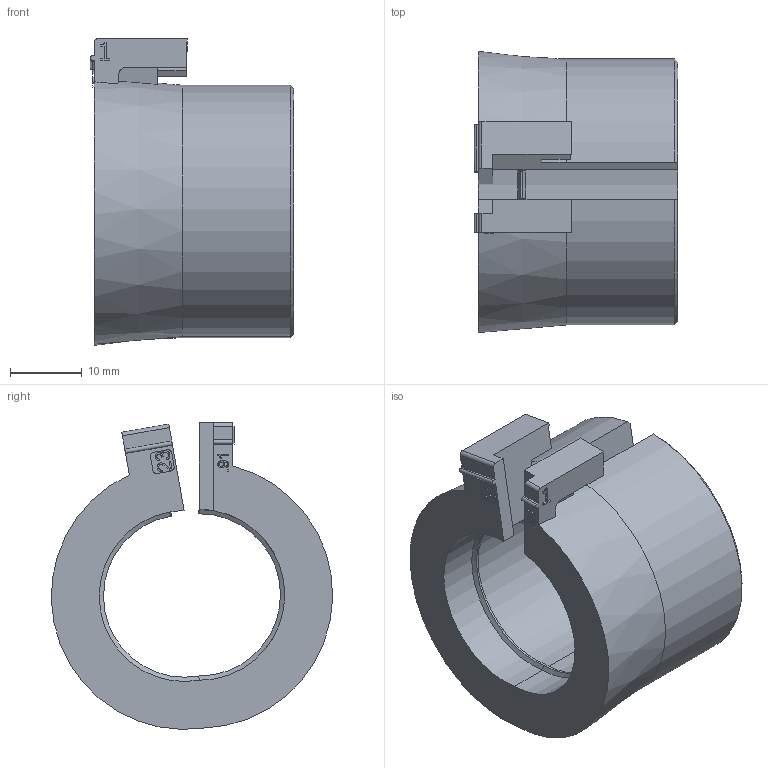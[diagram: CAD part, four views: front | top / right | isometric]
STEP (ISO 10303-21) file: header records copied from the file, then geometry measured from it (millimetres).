
FILE_DESCRIPTION(/* description */ (''),/* implementation_level */ '2;1');
FILE_NAME(/* name */ 'C:\SapWorkDir\Inventor\MP1\ConvertTempPath\87_12_121372_00_A_220530_KDT-X 23.stp',/* time_stamp */ '2022-05-31T16:01:47+02:00',/* author */ ('BAUER'),/* organization */ (''),/* preprocessor_version */ 'ST-DEVELOPER v16.13',/* originating_system */ 'Autodesk Inventor 2018',/* authorisation */ '');
FILE_SCHEMA (('AUTOMOTIVE_DESIGN { 1 0 10303 214 3 1 1 }'));
Length unit declared in the file: millimetre
Products named in the file (1): 121372
Bounding box: 28.4 x 39.19 x 42.74 mm (x, y, z)
Volume: 15644.6 mm3; surface area: 7209.5 mm2
Topology: 1 solids, 1 shells, 157 faces, 422 edges, 275 vertices
Faces by surface type: plane 87, bspline 37, cylinder 25, cone 8
Entity records: 5224 total; most frequent: CARTESIAN_POINT 1359, ORIENTED_EDGE 844, DIRECTION 642, EDGE_CURVE 422, LINE 282, VECTOR 282, VERTEX_POINT 275, AXIS2_PLACEMENT_3D 180
